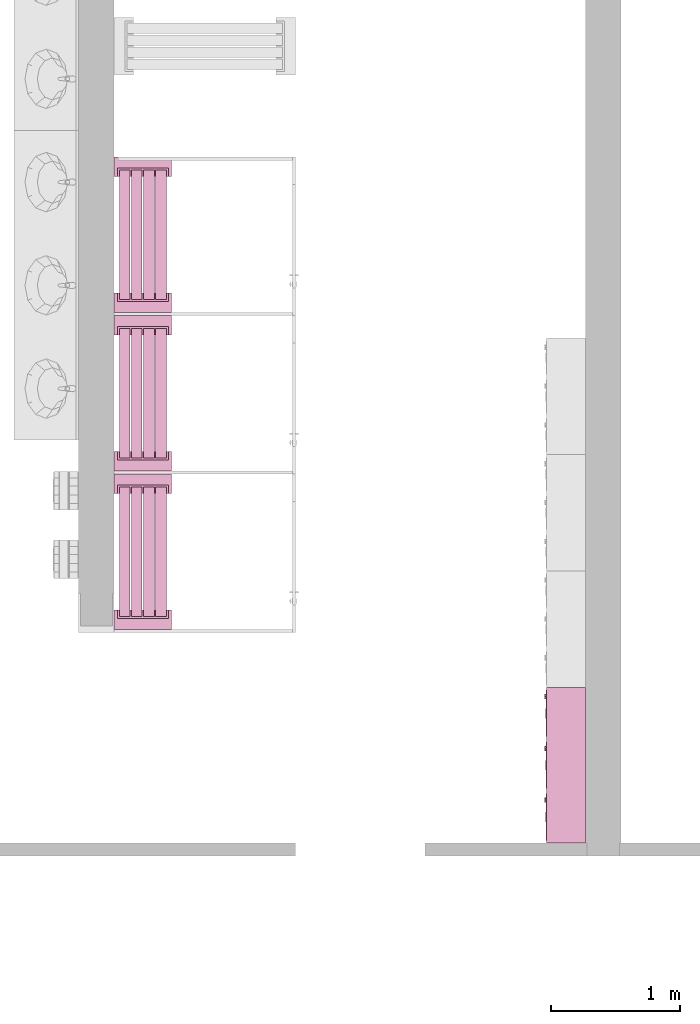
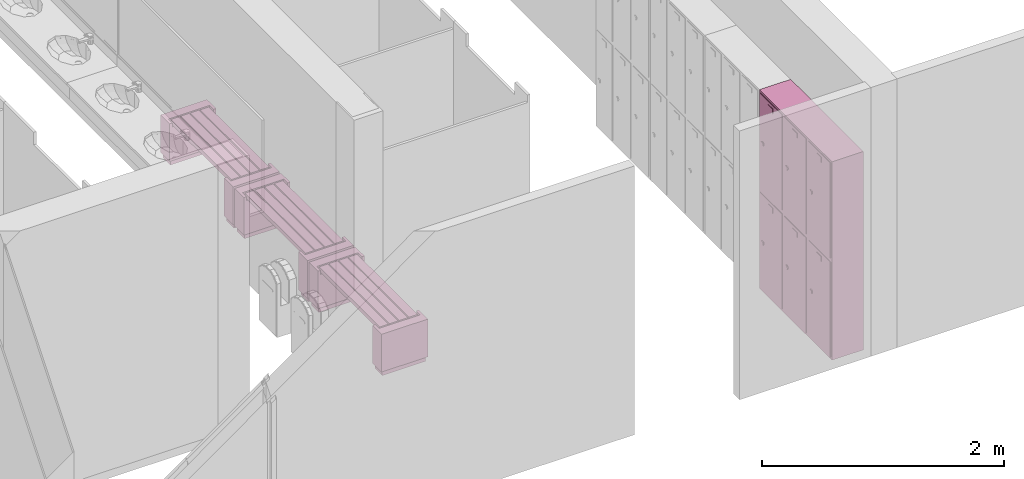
# One storey, part 11 of 22: 4 furnishings.
"""IFC2X3 building model written with IfcOpenShell, lengths in millimetres."""

from ifc_helpers import new_model, entity, si_unit, converted_unit, derived_unit, direction, frame, frame_2d, origin, origin_2d_with_axis, place, context, subcontext, project, spatial, polyline, rectangle, outline, extrude, source, transform, mapped, material, material_list, type_object, type_shapes, element, save


model = new_model("IFC2X3")

# Units and contexts
model_context = context("Model", 3, precision=0.01, world=origin(), true_north=direction((6.12303176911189e-17, 1.0)))
body_context = subcontext(model_context, "Body", "Model", "MODEL_VIEW")
ifc_project = project(units=[si_unit("LENGTHUNIT", "METRE", prefix="MILLI"), si_unit("AREAUNIT", "SQUARE_METRE"), si_unit("VOLUMEUNIT", "CUBIC_METRE"), converted_unit("PLANEANGLEUNIT", "DEGREE", entity("IfcRatioMeasure", 0.0174532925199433), si_unit("PLANEANGLEUNIT", "RADIAN"), dimensions=[0, 0, 0, 0, 0, 0, 0]), si_unit("MASSUNIT", "GRAM", prefix="KILO"), derived_unit("MASSDENSITYUNIT", [(si_unit("MASSUNIT", "GRAM", prefix="KILO"), 1), (si_unit("LENGTHUNIT", "METRE"), -3)]), si_unit("TIMEUNIT", "SECOND"), si_unit("FREQUENCYUNIT", "HERTZ"), si_unit("THERMODYNAMICTEMPERATUREUNIT", "DEGREE_CELSIUS"), derived_unit("THERMALTRANSMITTANCEUNIT", [(si_unit("MASSUNIT", "GRAM", prefix="KILO"), 1), (si_unit("THERMODYNAMICTEMPERATUREUNIT", "KELVIN"), -1), (si_unit("TIMEUNIT", "SECOND"), -3)]), derived_unit("VOLUMETRICFLOWRATEUNIT", [(si_unit("LENGTHUNIT", "METRE"), 3), (si_unit("TIMEUNIT", "SECOND"), -1)]), si_unit("ELECTRICCURRENTUNIT", "AMPERE"), si_unit("ELECTRICVOLTAGEUNIT", "VOLT"), si_unit("POWERUNIT", "WATT"), si_unit("FORCEUNIT", "NEWTON", prefix="KILO"), si_unit("ILLUMINANCEUNIT", "LUX"), si_unit("LUMINOUSFLUXUNIT", "LUMEN"), si_unit("LUMINOUSINTENSITYUNIT", "CANDELA"), derived_unit("USERDEFINED", [(si_unit("MASSUNIT", "GRAM", prefix="KILO"), -1), (si_unit("LENGTHUNIT", "METRE"), -2), (si_unit("TIMEUNIT", "SECOND"), 3), (si_unit("LUMINOUSFLUXUNIT", "LUMEN"), 1)]), derived_unit("LINEARVELOCITYUNIT", [(si_unit("LENGTHUNIT", "METRE"), 1), (si_unit("TIMEUNIT", "SECOND"), -1)]), si_unit("PRESSUREUNIT", "PASCAL"), derived_unit("USERDEFINED", [(si_unit("LENGTHUNIT", "METRE"), -2), (si_unit("MASSUNIT", "GRAM", prefix="KILO"), 1), (si_unit("TIMEUNIT", "SECOND"), -2)])], contexts=[model_context])

# Site, building, storey
site_placement = place(None, origin())
site = spatial("IfcSite", under=ifc_project, at=site_placement, Name="Default", CompositionType="ELEMENT")
building_placement = place(site_placement, origin())
building = spatial("IfcBuilding", under=site, at=building_placement, CompositionType="ELEMENT")
storey_placement = place(building_placement, frame((0.0, 0.0, -3000.0)))
storey = spatial("IfcBuildingStorey", under=building, at=storey_placement, Name="-2. Story", CompositionType="ELEMENT", Elevation=-3000.0)

# Furnishings
ifc_material_1 = material(Name="Wood - Pine Grained Horizontal")
ifc_material_2 = material(Name="Paint - Titanium White")
ifc_material_list_1 = material_list([ifc_material_1, ifc_material_2])
ifc_material_list_2 = material_list([ifc_material_1, ifc_material_2])
furniture_type_1 = type_object("IfcFurnitureType", Name="FU - 011", material=ifc_material_list_2)
shared_shape_1 = source(origin(), body_context, "Body", "SweptSolid", [
    extrude(rectangle(XDim=83.157548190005, YDim=1000.00000000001, at=frame_2d((-4.33431068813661e-12, 4.32009983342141e-12), x_axis=(1.0, 0.0))), frame((50688.062036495, 76853.9483369, -2510.0)), (0.0, 0.0, 1.0), 40.0000000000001),
    extrude(rectangle(XDim=83.1575481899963, YDim=1000.00000000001, at=frame_2d((0.0, 4.32009983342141e-12), x_axis=(1.0, 0.0))), frame((50781.219584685, 76853.9483369, -2510.0)), (0.0, 0.0, 1.0), 40.0000000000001),
    extrude(rectangle(XDim=83.1575481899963, YDim=1000.00000000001, at=frame_2d((0.0, 4.32009983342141e-12), x_axis=(1.0, 0.0))), frame((50874.377132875, 76853.9483369, -2510.0)), (0.0, 0.0, 1.0), 40.0000000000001),
    extrude(rectangle(XDim=83.157548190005, YDim=1000.00000000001, at=frame_2d((-4.33431068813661e-12, 4.32009983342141e-12), x_axis=(1.0, 0.0))), frame((50967.534681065, 76853.9483369, -2510.0)), (0.0, 0.0, 1.0), 40.0000000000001),
    extrude(outline(polyline([(-53.7499999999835, -221.315096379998), (96.2500000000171, -221.315096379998), (96.2500000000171, 221.315096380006), (-53.7499999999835, 221.315096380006), (-53.7499999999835, 196.315096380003), (11.2500000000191, 196.315096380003), (11.2500000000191, -196.315096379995), (-53.7499999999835, -196.315096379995), (-53.7499999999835, -221.315096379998)])), frame((50827.79835878, 77357.6983369, -2510.0), z_axis=(0.0, 0.0, 1.0), x_axis=(0.0, 1.0, 0.0)), (0.0, 0.0, 1.0), 40.0000000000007),
    extrude(rectangle(XDim=150.000000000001, YDim=442.630192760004, at=frame_2d((0.0, 4.33431068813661e-12), x_axis=(1.0, 0.0))), frame((50827.79835878, 77378.9483369, -2850.0), z_axis=(0.0, 0.0, 1.0), x_axis=(0.0, 1.0, 0.0)), (0.0, 0.0, 1.0), 340.0),
    extrude(rectangle(XDim=119.999999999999, YDim=412.630192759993, at=frame_2d((4.33075797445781e-12, 4.33431068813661e-12), x_axis=(1.0, 0.0))), frame((50827.79835878, 77378.9483369, -2900.0), z_axis=(0.0, 0.0, 1.0), x_axis=(0.0, 1.0, 0.0)), (0.0, 0.0, 1.0), 50.0),
    extrude(outline(polyline([(-221.315096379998, -96.2500000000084), (221.315096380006, -96.2500000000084), (221.315096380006, 53.7499999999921), (196.315096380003, 53.7499999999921), (196.315096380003, -11.2500000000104), (-196.315096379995, -11.2500000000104), (-196.315096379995, 53.7499999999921), (-221.315096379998, 53.7499999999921), (-221.315096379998, -96.2500000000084)])), frame((50827.79835878, 76350.1983369, -2510.0)), (0.0, 0.0, 1.0), 40.0000000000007),
    extrude(rectangle(XDim=442.630192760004, YDim=150.000000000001, at=frame_2d((-4.33431068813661e-12, 0.0), x_axis=(1.0, 0.0))), frame((50827.79835878, 76328.9483369, -2850.0)), (0.0, 0.0, 1.0), 340.0),
    extrude(rectangle(XDim=412.630192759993, YDim=119.999999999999, at=frame_2d((-4.33431068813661e-12, 4.33075797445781e-12), x_axis=(1.0, 0.0))), frame((50827.79835878, 76328.9483369, -2900.0)), (0.0, 0.0, 1.0), 50.0),
])
type_shapes(furniture_type_1, [shared_shape_1])
furnishing_1_placement = place(storey_placement, frame((0.0, 0.0, 3000.0)))
element("IfcFurnishingElement", 1, at=furnishing_1_placement, inside=storey, type_object=furniture_type_1, material=ifc_material_list_1, Name="FU - 011:FU - 011", ObjectType="FU - 011:FU - 011", context=body_context, shape_type="MappedRepresentation", body=[
    mapped(shared_shape_1, transform((0.0, 0.0, 0.0), scale=1.0)),
])
ifc_material_list_3 = material_list([ifc_material_1, ifc_material_2])
ifc_material_list_4 = material_list([ifc_material_1, ifc_material_2])
furniture_type_2 = type_object("IfcFurnitureType", Name="FU - 011", material=ifc_material_list_4)
shared_shape_2 = source(origin(), body_context, "Body", "SweptSolid", [
    extrude(rectangle(XDim=83.157548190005, YDim=1000.00000000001, at=frame_2d((-4.33431068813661e-12, 4.32009983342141e-12), x_axis=(1.0, 0.0))), frame((50688.062036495, 78078.9483369, -2510.0)), (0.0, 0.0, 1.0), 40.0000000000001),
    extrude(rectangle(XDim=83.1575481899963, YDim=1000.00000000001, at=frame_2d((0.0, 4.32009983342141e-12), x_axis=(1.0, 0.0))), frame((50781.219584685, 78078.9483369, -2510.0)), (0.0, 0.0, 1.0), 40.0000000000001),
    extrude(rectangle(XDim=83.1575481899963, YDim=1000.00000000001, at=frame_2d((0.0, 4.32009983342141e-12), x_axis=(1.0, 0.0))), frame((50874.377132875, 78078.9483369, -2510.0)), (0.0, 0.0, 1.0), 40.0000000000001),
    extrude(rectangle(XDim=83.157548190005, YDim=1000.00000000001, at=frame_2d((-4.33431068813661e-12, 4.32009983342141e-12), x_axis=(1.0, 0.0))), frame((50967.534681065, 78078.9483369, -2510.0)), (0.0, 0.0, 1.0), 40.0000000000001),
    extrude(outline(polyline([(-53.7500000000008, -221.315096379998), (96.2499999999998, -221.315096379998), (96.2499999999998, 221.315096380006), (-53.7500000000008, 221.315096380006), (-53.7500000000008, 196.315096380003), (11.2500000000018, 196.315096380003), (11.2500000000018, -196.315096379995), (-53.7500000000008, -196.315096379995), (-53.7500000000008, -221.315096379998)])), frame((50827.79835878, 78582.6983369, -2510.0), z_axis=(0.0, 0.0, 1.0), x_axis=(0.0, 1.0, 0.0)), (0.0, 0.0, 1.0), 40.0000000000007),
    extrude(rectangle(XDim=150.000000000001, YDim=442.630192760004, at=frame_2d((0.0, 4.33431068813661e-12), x_axis=(1.0, 0.0))), frame((50827.79835878, 78603.9483369, -2850.0), z_axis=(0.0, 0.0, 1.0), x_axis=(0.0, 1.0, 0.0)), (0.0, 0.0, 1.0), 340.0),
    extrude(rectangle(XDim=120.000000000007, YDim=412.630192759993, at=frame_2d((0.0, 4.33431068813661e-12), x_axis=(1.0, 0.0))), frame((50827.79835878, 78603.9483369, -2900.0), z_axis=(0.0, 0.0, 1.0), x_axis=(0.0, 1.0, 0.0)), (0.0, 0.0, 1.0), 50.0),
    extrude(outline(polyline([(-221.315096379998, -96.2499999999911), (221.315096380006, -96.2499999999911), (221.315096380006, 53.7500000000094), (196.315096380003, 53.7500000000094), (196.315096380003, -11.2499999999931), (-196.315096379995, -11.2499999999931), (-196.315096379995, 53.7500000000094), (-221.315096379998, 53.7500000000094), (-221.315096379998, -96.2499999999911)])), frame((50827.79835878, 77575.1983369, -2510.0)), (0.0, 0.0, 1.0), 40.0000000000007),
    extrude(rectangle(XDim=442.630192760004, YDim=150.000000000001, at=frame_2d((-4.33431068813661e-12, 0.0), x_axis=(1.0, 0.0))), frame((50827.79835878, 77553.9483369, -2850.0)), (0.0, 0.0, 1.0), 340.0),
    extrude(rectangle(XDim=412.630192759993, YDim=119.999999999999, at=frame_2d((-4.33431068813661e-12, 4.33075797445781e-12), x_axis=(1.0, 0.0))), frame((50827.79835878, 77553.9483369, -2900.0)), (0.0, 0.0, 1.0), 50.0),
])
type_shapes(furniture_type_2, [shared_shape_2])
furnishing_2_placement = place(storey_placement, frame((0.0, 0.0, 3000.0)))
element("IfcFurnishingElement", 2, at=furnishing_2_placement, inside=storey, type_object=furniture_type_2, material=ifc_material_list_3, Name="FU - 011 1521888:FU - 011 1521888", ObjectType="FU - 011 1521888:FU - 011 1521888", context=body_context, shape_type="MappedRepresentation", body=[
    mapped(shared_shape_2, transform((0.0, 0.0, 0.0), scale=1.0)),
])
ifc_material_list_5 = material_list([ifc_material_1, ifc_material_2])
ifc_material_list_6 = material_list([ifc_material_1, ifc_material_2])
furniture_type_3 = type_object("IfcFurnitureType", Name="FU - 011", material=ifc_material_list_6)
shared_shape_3 = source(origin(), body_context, "Body", "SweptSolid", [
    extrude(rectangle(XDim=83.157548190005, YDim=999.999999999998, at=frame_2d((-4.33431068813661e-12, -8.66862137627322e-12), x_axis=(1.0, 0.0))), frame((50688.062036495, 79303.9483369, -2510.0)), (0.0, 0.0, 1.0), 40.0000000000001),
    extrude(rectangle(XDim=83.1575481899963, YDim=999.999999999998, at=frame_2d((0.0, -8.66862137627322e-12), x_axis=(1.0, 0.0))), frame((50781.219584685, 79303.9483369, -2510.0)), (0.0, 0.0, 1.0), 40.0000000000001),
    extrude(rectangle(XDim=83.1575481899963, YDim=999.999999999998, at=frame_2d((0.0, -8.66862137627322e-12), x_axis=(1.0, 0.0))), frame((50874.377132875, 79303.9483369, -2510.0)), (0.0, 0.0, 1.0), 40.0000000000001),
    extrude(rectangle(XDim=83.157548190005, YDim=999.999999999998, at=frame_2d((-4.33431068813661e-12, -8.66862137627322e-12), x_axis=(1.0, 0.0))), frame((50967.534681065, 79303.9483369, -2510.0)), (0.0, 0.0, 1.0), 40.0000000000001),
    extrude(outline(polyline([(-53.7500000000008, -221.315096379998), (96.2499999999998, -221.315096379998), (96.2499999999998, 221.315096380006), (-53.7500000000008, 221.315096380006), (-53.7500000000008, 196.315096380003), (11.2500000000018, 196.315096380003), (11.2500000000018, -196.315096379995), (-53.7500000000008, -196.315096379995), (-53.7500000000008, -221.315096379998)])), frame((50827.79835878, 79807.6983369, -2510.0), z_axis=(0.0, 0.0, 1.0), x_axis=(0.0, 1.0, 0.0)), (0.0, 0.0, 1.0), 40.0000000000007),
    extrude(rectangle(XDim=150.000000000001, YDim=442.630192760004, at=frame_2d((0.0, 4.33431068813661e-12), x_axis=(1.0, 0.0))), frame((50827.79835878, 79828.9483369, -2850.0), z_axis=(0.0, 0.0, 1.0), x_axis=(0.0, 1.0, 0.0)), (0.0, 0.0, 1.0), 340.0),
    extrude(rectangle(XDim=120.000000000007, YDim=412.630192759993, at=frame_2d((0.0, 4.33431068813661e-12), x_axis=(1.0, 0.0))), frame((50827.79835878, 79828.9483369, -2900.0), z_axis=(0.0, 0.0, 1.0), x_axis=(0.0, 1.0, 0.0)), (0.0, 0.0, 1.0), 50.0),
    extrude(outline(polyline([(-221.315096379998, -96.2499999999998), (221.315096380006, -96.2499999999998), (221.315096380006, 53.7500000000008), (196.315096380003, 53.7500000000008), (196.315096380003, -11.2499999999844), (-196.315096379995, -11.2499999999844), (-196.315096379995, 53.7500000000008), (-221.315096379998, 53.7500000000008), (-221.315096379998, -96.2499999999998)])), frame((50827.79835878, 78800.1983369, -2510.0)), (0.0, 0.0, 1.0), 40.0000000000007),
    extrude(rectangle(XDim=442.630192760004, YDim=150.000000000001, at=frame_2d((-4.33431068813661e-12, 0.0), x_axis=(1.0, 0.0))), frame((50827.79835878, 78778.9483369, -2850.0)), (0.0, 0.0, 1.0), 340.0),
    extrude(rectangle(XDim=412.630192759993, YDim=119.99999999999, at=frame_2d((-4.33431068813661e-12, -8.66506866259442e-12), x_axis=(1.0, 0.0))), frame((50827.79835878, 78778.9483369, -2900.0)), (0.0, 0.0, 1.0), 50.0),
])
type_shapes(furniture_type_3, [shared_shape_3])
furnishing_3_placement = place(storey_placement, frame((0.0, 0.0, 3000.0)))
element("IfcFurnishingElement", 3, at=furnishing_3_placement, inside=storey, type_object=furniture_type_3, material=ifc_material_list_5, Name="FU - 011 1524180:FU - 011 1524180", ObjectType="FU - 011 1524180:FU - 011 1524180", context=body_context, shape_type="MappedRepresentation", body=[
    mapped(shared_shape_3, transform((0.0, 0.0, 0.0), scale=1.0)),
])
ifc_material_3 = material(Name="Metal - Stainless Steel")
ifc_material_4 = material(Name="Paint - Glossy White")
ifc_material_5 = material(Name="Paint - Cobalt Blue")
ifc_material_list_7 = material_list([ifc_material_3, ifc_material_4, ifc_material_5])
ifc_material_list_8 = material_list([ifc_material_3, ifc_material_4, ifc_material_5])
furniture_type_4 = type_object("IfcFurnitureType", Name="FU - 010", material=ifc_material_list_8)
shared_shape_4 = source(origin(), body_context, "Body", "SweptSolid", [
    extrude(outline(polyline([(-7.65366864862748, -18.4775906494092), (7.65366864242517, -18.4775906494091), (18.4775906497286, -7.65366864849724), (18.477590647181, 7.65366864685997), (7.65366864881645, 18.4775906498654), (-7.65366864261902, 18.4775906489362), (-18.4775906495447, 7.65366864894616), (-18.4775906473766, -7.65366864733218), (-7.65366864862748, -18.4775906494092)])), frame((53933.5254833, 74933.4207132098, -1400.0), z_axis=(1.0, 0.0, 0.0), x_axis=(0.0, 0.382683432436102, -0.923879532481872)), (0.0, 0.0, 1.0), 10.0000000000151),
    extrude(rectangle(XDim=74.9999999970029, YDim=4.99999999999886, at=origin_2d_with_axis()), frame((53941.0254833, 74803.2888072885, -1000.0), z_axis=(0.0, 0.0, 1.0), x_axis=(0.0, -1.0, 0.0)), (0.0, 0.0, 1.0), 50.0),
    extrude(rectangle(XDim=360.263811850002, YDim=9.99999999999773, at=origin_2d_with_axis()), frame((53948.5254833, 74803.288807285, -1880.0), z_axis=(0.0, 0.0, 1.0), x_axis=(0.0, 1.0, 0.0)), (0.0, 0.0, 1.0), 960.0),
    extrude(rectangle(XDim=400.263811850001, YDim=20.0000000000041, at=frame_2d((-4.33431068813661e-12, -4.33164615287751e-12), x_axis=(1.0, 0.0))), frame((54238.5254833, 74803.288807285, -1900.0), z_axis=(0.0, 0.0, 1.0), x_axis=(0.0, -1.0, 0.0)), (0.0, 0.0, 1.0), 1000.0),
    extrude(outline(polyline([(-200.131905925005, -500.0), (200.131905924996, -500.0), (200.131905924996, 500.0), (-200.131905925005, 500.0), (-200.131905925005, -500.0)]), holes=[polyline([(180.131905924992, 480.0), (180.131905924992, -480.0), (-180.13190592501, -480.0), (-180.13190592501, 480.0), (180.131905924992, 480.0)])]), frame((53948.5254833, 74803.288807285, -1400.0), z_axis=(1.0, 0.0, 0.0), x_axis=(0.0, 1.0, 0.0)), (0.0, 0.0, 1.0), 279.999999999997),
    extrude(outline(polyline([(-7.65366864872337, -18.4775906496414), (7.65366864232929, -18.4775906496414), (18.4775906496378, -7.65366864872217), (18.4775906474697, 7.65366864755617), (7.65366864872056, 18.4775906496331), (-7.6536686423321, 18.4775906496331), (-18.477590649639, 7.65366864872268), (-18.4775906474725, -7.65366864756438), (-7.65366864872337, -18.4775906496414)])), frame((53933.5254833, 75333.684525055, -1400.0), z_axis=(1.0, 0.0, 0.0), x_axis=(0.0, 0.382683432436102, -0.923879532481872)), (0.0, 0.0, 1.0), 10.0000000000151),
    extrude(rectangle(XDim=75.0000000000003, YDim=4.99999999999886, at=origin_2d_with_axis()), frame((53941.0254833, 75203.552619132, -1000.0), z_axis=(0.0, 0.0, 1.0), x_axis=(0.0, -1.0, 0.0)), (0.0, 0.0, 1.0), 50.0),
    extrude(rectangle(XDim=360.263811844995, YDim=9.99999999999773, at=origin_2d_with_axis()), frame((53948.5254833, 75203.5526191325, -1880.0), z_axis=(0.0, 0.0, 1.0), x_axis=(0.0, 1.0, 0.0)), (0.0, 0.0, 1.0), 960.0),
    extrude(rectangle(XDim=400.263811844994, YDim=20.0000000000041, at=frame_2d((-4.33431068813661e-12, -4.33164615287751e-12), x_axis=(1.0, 0.0))), frame((54238.5254833, 75203.5526191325, -1900.0), z_axis=(0.0, 0.0, 1.0), x_axis=(0.0, -1.0, 0.0)), (0.0, 0.0, 1.0), 1000.0),
    extrude(outline(polyline([(-200.131905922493, -500.0), (200.131905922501, -500.0), (200.131905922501, 500.0), (-200.131905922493, 500.0), (-200.131905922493, -500.0)]), holes=[polyline([(180.131905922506, 480.0), (180.131905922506, -480.0), (-180.131905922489, -480.0), (-180.131905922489, 480.0), (180.131905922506, 480.0)])]), frame((53948.5254833, 75203.5526191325, -1400.0), z_axis=(1.0, 0.0, 0.0), x_axis=(0.0, 1.0, 0.0)), (0.0, 0.0, 1.0), 279.999999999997),
    extrude(outline(polyline([(-7.65366864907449, -18.4775906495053), (7.65366864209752, -18.4775906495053), (18.4775906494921, -7.6536686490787), (18.4775906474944, 7.65366864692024), (7.65366864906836, 18.4775906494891), (-7.6536686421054, 18.4775906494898), (-18.4775906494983, 7.65366864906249), (-18.4775906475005, -7.65366864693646), (-7.65366864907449, -18.4775906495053)])), frame((53933.5254833, 75733.9483369, -1400.0), z_axis=(1.0, 0.0, 0.0), x_axis=(0.0, 0.382683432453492, -0.923879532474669)), (0.0, 0.0, 1.0), 10.0000000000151),
    extrude(rectangle(XDim=75.0000000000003, YDim=4.99999999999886, at=origin_2d_with_axis()), frame((53941.0254833, 75603.816430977, -1000.0), z_axis=(0.0, 0.0, 1.0), x_axis=(0.0, -1.0, 0.0)), (0.0, 0.0, 1.0), 50.0),
    extrude(rectangle(XDim=360.263811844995, YDim=9.99999999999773, at=origin_2d_with_axis()), frame((53948.5254833, 75603.8164309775, -1880.0), z_axis=(0.0, 0.0, 1.0), x_axis=(0.0, 1.0, 0.0)), (0.0, 0.0, 1.0), 960.0),
    extrude(rectangle(XDim=400.263811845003, YDim=20.0000000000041, at=frame_2d((0.0, -4.33164615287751e-12), x_axis=(1.0, 0.0))), frame((54238.5254833, 75603.8164309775, -1900.0), z_axis=(0.0, 0.0, 1.0), x_axis=(0.0, -1.0, 0.0)), (0.0, 0.0, 1.0), 1000.0),
    extrude(outline(polyline([(-200.131905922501, -500.0), (200.131905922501, -500.0), (200.131905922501, 500.0), (-200.131905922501, 500.0), (-200.131905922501, -500.0)]), holes=[polyline([(180.131905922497, 480.0), (180.131905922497, -480.0), (-180.131905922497, -480.0), (-180.131905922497, 480.0), (180.131905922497, 480.0)])]), frame((53948.5254833, 75603.8164309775, -1400.0), z_axis=(1.0, 0.0, 0.0), x_axis=(0.0, 1.0, 0.0)), (0.0, 0.0, 1.0), 279.999999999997),
    extrude(outline(polyline([(-7.65366864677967, -18.4775906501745), (7.65366864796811, -18.4775906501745), (18.4775906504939, -7.65366864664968), (18.4775906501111, 7.65366864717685), (7.65366864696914, 18.4775906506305), (-7.65366864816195, 18.4775906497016), (-18.4775906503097, 7.6536686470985), (-18.4775906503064, -7.65366864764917), (-7.65366864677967, -18.4775906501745)])), frame((53933.5254833, 74933.4207132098, -2400.0), z_axis=(1.0, 0.0, 0.0), x_axis=(0.0, 0.382683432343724, -0.923879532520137)), (0.0, 0.0, 1.0), 10.0000000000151),
    extrude(rectangle(XDim=74.9999999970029, YDim=4.99999999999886, at=origin_2d_with_axis()), frame((53941.0254833, 74803.2888072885, -2000.0), z_axis=(0.0, 0.0, 1.0), x_axis=(0.0, -1.0, 0.0)), (0.0, 0.0, 1.0), 50.0),
    extrude(rectangle(XDim=360.263811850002, YDim=9.99999999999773, at=origin_2d_with_axis()), frame((53948.5254833, 74803.288807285, -2880.0), z_axis=(0.0, 0.0, 1.0), x_axis=(0.0, 1.0, 0.0)), (0.0, 0.0, 1.0), 960.0),
    extrude(rectangle(XDim=400.263811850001, YDim=20.0000000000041, at=frame_2d((-4.33431068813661e-12, -4.33164615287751e-12), x_axis=(1.0, 0.0))), frame((54238.5254833, 74803.288807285, -2900.0), z_axis=(0.0, 0.0, 1.0), x_axis=(0.0, -1.0, 0.0)), (0.0, 0.0, 1.0), 1000.0),
    extrude(outline(polyline([(-200.131905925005, -500.0), (200.131905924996, -500.0), (200.131905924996, 500.0), (-200.131905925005, 500.0), (-200.131905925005, -500.0)]), holes=[polyline([(180.131905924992, 480.0), (180.131905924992, -480.0), (-180.13190592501, -480.0), (-180.13190592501, 480.0), (180.131905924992, 480.0)])]), frame((53948.5254833, 74803.288807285, -2400.0), z_axis=(1.0, 0.0, 0.0), x_axis=(0.0, 1.0, 0.0)), (0.0, 0.0, 1.0), 279.999999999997),
    extrude(outline(polyline([(-7.65366864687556, -18.4775906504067), (7.65366864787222, -18.4775906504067), (18.477590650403, -7.65366864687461), (18.4775906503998, 7.65366864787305), (7.65366864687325, 18.4775906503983), (-7.65366864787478, 18.4775906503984), (-18.477590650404, 7.65366864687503), (-18.4775906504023, -7.65366864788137), (-7.65366864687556, -18.4775906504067)])), frame((53933.5254833, 75333.684525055, -2400.0), z_axis=(1.0, 0.0, 0.0), x_axis=(0.0, 0.382683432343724, -0.923879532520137)), (0.0, 0.0, 1.0), 10.0000000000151),
    extrude(rectangle(XDim=75.0000000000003, YDim=4.99999999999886, at=origin_2d_with_axis()), frame((53941.0254833, 75203.552619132, -2000.0), z_axis=(0.0, 0.0, 1.0), x_axis=(0.0, -1.0, 0.0)), (0.0, 0.0, 1.0), 50.0),
    extrude(rectangle(XDim=360.263811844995, YDim=9.99999999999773, at=origin_2d_with_axis()), frame((53948.5254833, 75203.5526191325, -2880.0), z_axis=(0.0, 0.0, 1.0), x_axis=(0.0, 1.0, 0.0)), (0.0, 0.0, 1.0), 960.0),
    extrude(rectangle(XDim=400.263811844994, YDim=20.0000000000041, at=frame_2d((-4.33431068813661e-12, -4.33164615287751e-12), x_axis=(1.0, 0.0))), frame((54238.5254833, 75203.5526191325, -2900.0), z_axis=(0.0, 0.0, 1.0), x_axis=(0.0, -1.0, 0.0)), (0.0, 0.0, 1.0), 1000.0),
    extrude(outline(polyline([(-200.131905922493, -500.0), (200.131905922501, -500.0), (200.131905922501, 500.0), (-200.131905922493, 500.0), (-200.131905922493, -500.0)]), holes=[polyline([(180.131905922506, 480.0), (180.131905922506, -480.0), (-180.131905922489, -480.0), (-180.131905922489, 480.0), (180.131905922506, 480.0)])]), frame((53948.5254833, 75203.5526191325, -2400.0), z_axis=(1.0, 0.0, 0.0), x_axis=(0.0, 1.0, 0.0)), (0.0, 0.0, 1.0), 279.999999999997),
    extrude(outline(polyline([(-7.65366864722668, -18.4775906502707), (7.65366864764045, -18.4775906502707), (18.4775906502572, -7.65366864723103), (18.4775906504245, 7.65366864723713), (7.65366864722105, 18.4775906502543), (-7.65366864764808, 18.4775906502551), (-18.4775906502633, 7.65366864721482), (-18.4775906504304, -7.65366864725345), (-7.65366864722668, -18.4775906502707)])), frame((53933.5254833, 75733.9483369, -2400.0), z_axis=(1.0, 0.0, 0.0), x_axis=(0.0, 0.382683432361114, -0.923879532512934)), (0.0, 0.0, 1.0), 10.000000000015),
    extrude(rectangle(XDim=75.0000000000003, YDim=4.99999999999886, at=origin_2d_with_axis()), frame((53941.0254833, 75603.816430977, -2000.0), z_axis=(0.0, 0.0, 1.0), x_axis=(0.0, -1.0, 0.0)), (0.0, 0.0, 1.0), 50.0),
    extrude(rectangle(XDim=360.263811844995, YDim=9.99999999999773, at=origin_2d_with_axis()), frame((53948.5254833, 75603.8164309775, -2880.0), z_axis=(0.0, 0.0, 1.0), x_axis=(0.0, 1.0, 0.0)), (0.0, 0.0, 1.0), 960.0),
    extrude(rectangle(XDim=400.263811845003, YDim=20.0000000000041, at=frame_2d((0.0, -4.33164615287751e-12), x_axis=(1.0, 0.0))), frame((54238.5254833, 75603.8164309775, -2900.0), z_axis=(0.0, 0.0, 1.0), x_axis=(0.0, -1.0, 0.0)), (0.0, 0.0, 1.0), 1000.0),
    extrude(outline(polyline([(-200.131905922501, -500.0), (200.131905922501, -500.0), (200.131905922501, 500.0), (-200.131905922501, 500.0), (-200.131905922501, -500.0)]), holes=[polyline([(180.131905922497, 480.0), (180.131905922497, -480.0), (-180.131905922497, -480.0), (-180.131905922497, 480.0), (180.131905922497, 480.0)])]), frame((53948.5254833, 75603.8164309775, -2400.0), z_axis=(1.0, 0.0, 0.0), x_axis=(0.0, 1.0, 0.0)), (0.0, 0.0, 1.0), 279.999999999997),
])
type_shapes(furniture_type_4, [shared_shape_4])
furnishing_4_placement = place(storey_placement, frame((0.0, 0.0, 3000.0)))
element("IfcFurnishingElement", 4, at=furnishing_4_placement, inside=storey, type_object=furniture_type_4, material=ifc_material_list_7, Name="FU - 010 1526725:FU - 010 1526725", ObjectType="FU - 010 1526725:FU - 010 1526725", context=body_context, shape_type="MappedRepresentation", body=[
    mapped(shared_shape_4, transform((0.0, 0.0, 0.0), scale=1.0)),
])

save(model, "model.ifc")
